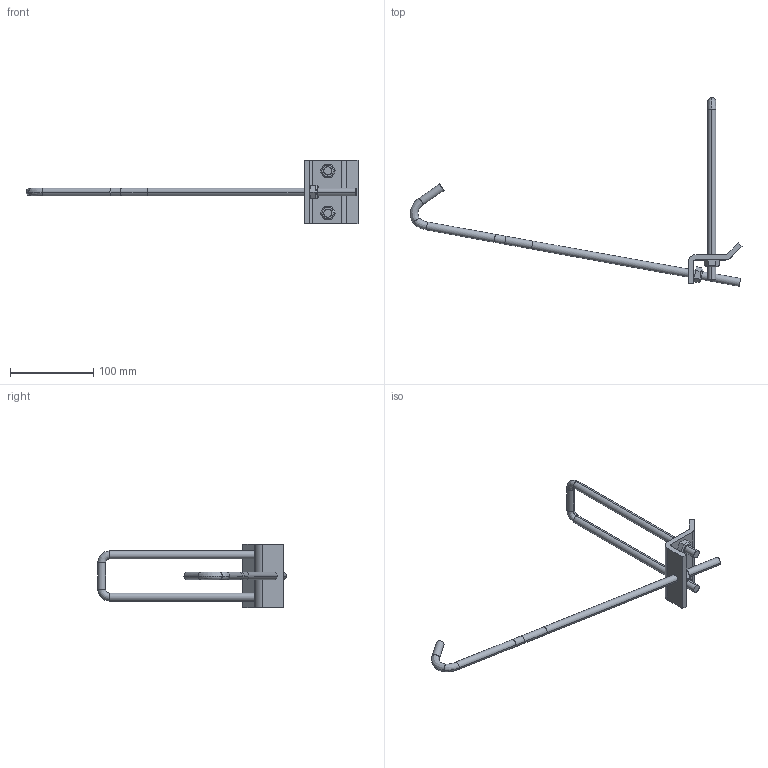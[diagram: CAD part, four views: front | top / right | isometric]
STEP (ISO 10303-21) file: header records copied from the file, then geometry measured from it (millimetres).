
FILE_DESCRIPTION(('TurboCAD Mac Pro'),'Build 980');
FILE_NAME('P2867B-15.stp',' ',(''),(''),'ACIS Interop','IMSI','TurboCAD Mac Pro BY IMSI, INCORPORATED');
FILE_SCHEMA(('automotive_design'));
Length unit declared in the file: inch
Products named in the file (6): 1; 2; 3; 4; 5; 6
Bounding box: 399.58 x 226.95 x 76.2 mm (x, y, z)
Volume: 114527.8 mm3; surface area: 47419.8 mm2
Topology: 6 solids, 6 shells, 100 faces, 226 edges, 138 vertices
Faces by surface type: plane 56, bspline 24, cylinder 20
Entity records: 5640 total; most frequent: CARTESIAN_POINT 1602, ORIENTED_EDGE 452, DIRECTION 382, STYLED_ITEM 304, PRESENTATION_STYLE_ASSIGNMENT 304, COLOUR_RGB 304, EDGE_CURVE 226, CURVE_STYLE 198
